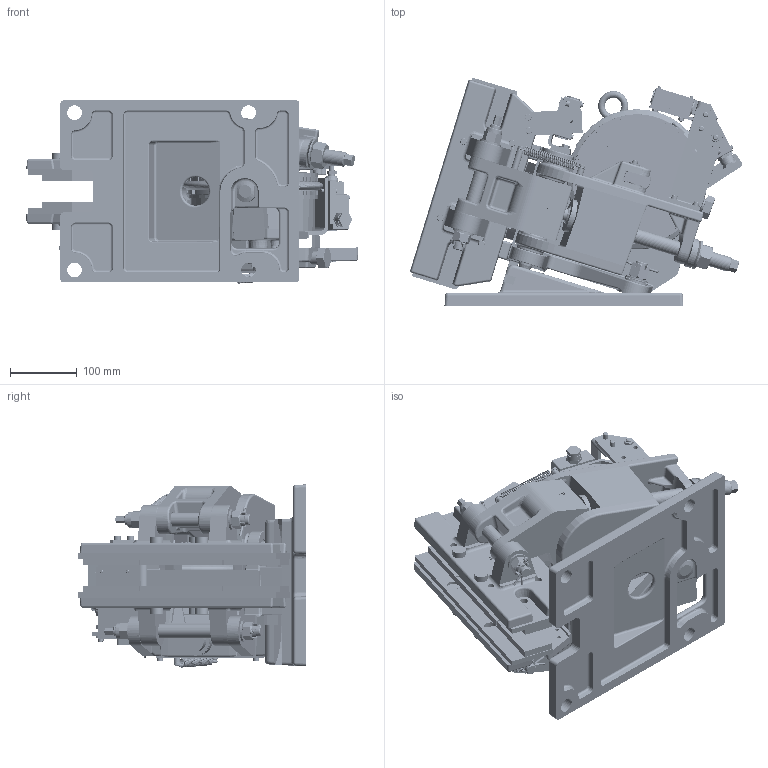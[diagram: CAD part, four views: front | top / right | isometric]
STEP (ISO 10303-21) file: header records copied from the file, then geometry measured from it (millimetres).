
FILE_DESCRIPTION((''),'2;1');
FILE_NAME('DA_405_FEM_SW0001','2026-09-09T17:11:51',('mapm'),(''),'CREO PARAMETRIC BY PTC INC, 2025102','CREO PARAMETRIC BY PTC INC, 2025102','');
FILE_SCHEMA(('CONFIG_CONTROL_DESIGN','SHAPE_APPEARANCE_LAYERS_GROUPS'));
Products named in the file (1): DA_405_FEM_SW0001
Bounding box: 496.04 x 341.54 x 273.89 mm (x, y, z)
Volume: 8841671.5 mm3; surface area: 1616286 mm2
Topology: 11 solids, 12 shells, 5823 faces, 14563 edges, 9182 vertices
Faces by surface type: plane 2967, cylinder 1565, cone 404, bspline 397, torus 247, extrusion 156, sphere 87
Entity records: 322772 total; most frequent: CARTESIAN_POINT 101187, ORIENTED_EDGE 28876, DIRECTION 27445, PRESENTATION_STYLE_ASSIGNMENT 20428, STYLED_ITEM 14605, CURVE_STYLE 14594, EDGE_CURVE 14438, AXIS2_PLACEMENT_3D 9812
